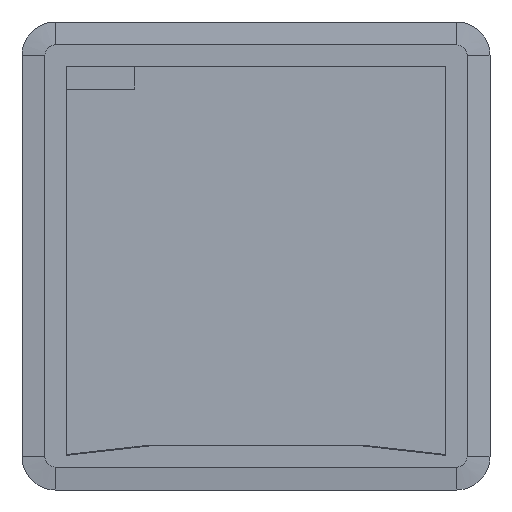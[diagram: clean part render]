
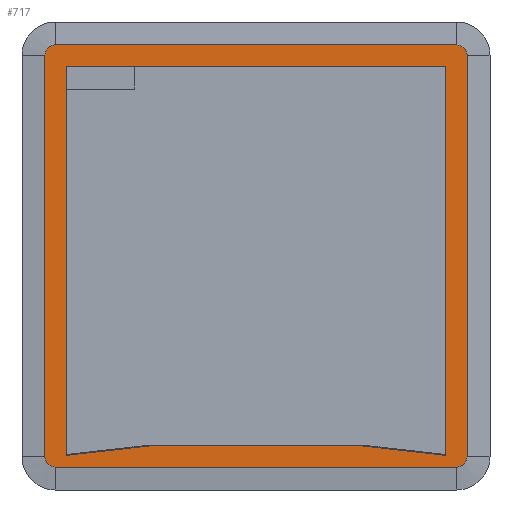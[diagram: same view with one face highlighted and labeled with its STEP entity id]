
A CAD part, front view. The second image highlights one B-rep face of the part: STEP entity #717.
In plain terms, the highlighted planar face has unit normal (0, -1, 0).
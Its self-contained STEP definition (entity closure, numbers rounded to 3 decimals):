
#157=FACE_BOUND('',#2316,.T.);
#717=ADVANCED_FACE('',(#1485,#157),#12813,.T.);
#1485=FACE_OUTER_BOUND('',#2315,.T.);
#2315=EDGE_LOOP('',(#5502,#5503,#5504,#5505,#5506,#5507,#5508,#5509));
#2316=EDGE_LOOP('',(#5510,#5511,#5512,#5513,#5514,#5515));
#5502=ORIENTED_EDGE('',*,*,#8147,.F.);
#5503=ORIENTED_EDGE('',*,*,#8150,.F.);
#5504=ORIENTED_EDGE('',*,*,#8153,.F.);
#5505=ORIENTED_EDGE('',*,*,#8156,.F.);
#5506=ORIENTED_EDGE('',*,*,#8159,.F.);
#5507=ORIENTED_EDGE('',*,*,#8178,.F.);
#5508=ORIENTED_EDGE('',*,*,#8140,.F.);
#5509=ORIENTED_EDGE('',*,*,#8144,.F.);
#5510=ORIENTED_EDGE('',*,*,#8128,.F.);
#5511=ORIENTED_EDGE('',*,*,#8126,.F.);
#5512=ORIENTED_EDGE('',*,*,#8124,.T.);
#5513=ORIENTED_EDGE('',*,*,#8129,.F.);
#5514=ORIENTED_EDGE('',*,*,#8130,.F.);
#5515=ORIENTED_EDGE('',*,*,#8127,.T.);
#8124=EDGE_CURVE('',#11807,#11806,#10530,.T.);
#8126=EDGE_CURVE('',#11807,#11808,#10532,.T.);
#8127=EDGE_CURVE('',#11810,#11809,#10533,.T.);
#8128=EDGE_CURVE('',#11808,#11809,#10534,.T.);
#8129=EDGE_CURVE('',#11812,#11806,#10535,.T.);
#8130=EDGE_CURVE('',#11810,#11812,#10536,.T.);
#8140=EDGE_CURVE('',#11814,#11813,#10546,.T.);
#8144=EDGE_CURVE('',#11811,#11814,#9195,.T.);
#8147=EDGE_CURVE('',#11818,#11811,#10551,.T.);
#8150=EDGE_CURVE('',#11820,#11818,#9197,.T.);
#8153=EDGE_CURVE('',#11822,#11820,#10555,.T.);
#8156=EDGE_CURVE('',#11824,#11822,#9199,.T.);
#8159=EDGE_CURVE('',#11826,#11824,#10559,.T.);
#8178=EDGE_CURVE('',#11813,#11826,#9205,.T.);
#9195=(
BOUNDED_CURVE()
B_SPLINE_CURVE(2,(#29902,#29903,#29904),.UNSPECIFIED.,.F.,.F.)
B_SPLINE_CURVE_WITH_KNOTS((3,3),(-7.069,0.),.UNSPECIFIED.)
CURVE()
GEOMETRIC_REPRESENTATION_ITEM()
RATIONAL_B_SPLINE_CURVE((1.,0.707,1.))
REPRESENTATION_ITEM('')
);
#9197=(
BOUNDED_CURVE()
B_SPLINE_CURVE(2,(#29916,#29917,#29918),.UNSPECIFIED.,.F.,.F.)
B_SPLINE_CURVE_WITH_KNOTS((3,3),(-7.069,0.),.UNSPECIFIED.)
CURVE()
GEOMETRIC_REPRESENTATION_ITEM()
RATIONAL_B_SPLINE_CURVE((1.,0.707,1.))
REPRESENTATION_ITEM('')
);
#9199=(
BOUNDED_CURVE()
B_SPLINE_CURVE(2,(#29930,#29931,#29932),.UNSPECIFIED.,.F.,.F.)
B_SPLINE_CURVE_WITH_KNOTS((3,3),(-7.069,0.),.UNSPECIFIED.)
CURVE()
GEOMETRIC_REPRESENTATION_ITEM()
RATIONAL_B_SPLINE_CURVE((1.,0.707,1.))
REPRESENTATION_ITEM('')
);
#9205=(
BOUNDED_CURVE()
B_SPLINE_CURVE(2,(#29980,#29981,#29982),.UNSPECIFIED.,.F.,.F.)
B_SPLINE_CURVE_WITH_KNOTS((3,3),(-7.069,0.),.UNSPECIFIED.)
CURVE()
GEOMETRIC_REPRESENTATION_ITEM()
RATIONAL_B_SPLINE_CURVE((1.,0.707,1.))
REPRESENTATION_ITEM('')
);
#10530=B_SPLINE_CURVE_WITH_KNOTS('',1,(#29784,#29785),.UNSPECIFIED.,.F.,
 .F.,(2,2),(-165.5,0.),.UNSPECIFIED.);
#10532=B_SPLINE_CURVE_WITH_KNOTS('',1,(#29788,#29789),.UNSPECIFIED.,.F.,
 .F.,(2,2),(0.,169.649),.UNSPECIFIED.);
#10533=B_SPLINE_CURVE_WITH_KNOTS('',1,(#29790,#29791),.UNSPECIFIED.,.F.,
 .F.,(2,2),(-92.062,0.),.UNSPECIFIED.);
#10534=B_SPLINE_CURVE_WITH_KNOTS('',1,(#29792,#29793),.UNSPECIFIED.,.F.,
 .F.,(2,2),(0.,36.953),.UNSPECIFIED.);
#10535=B_SPLINE_CURVE_WITH_KNOTS('',1,(#29794,#29795),.UNSPECIFIED.,.F.,
 .F.,(2,2),(0.,169.649),.UNSPECIFIED.);
#10536=B_SPLINE_CURVE_WITH_KNOTS('',1,(#29796,#29797),.UNSPECIFIED.,.F.,
 .F.,(2,2),(-36.953,0.),.UNSPECIFIED.);
#10546=B_SPLINE_CURVE_WITH_KNOTS('',1,(#29894,#29895),.UNSPECIFIED.,.F.,
 .F.,(2,2),(-175.,0.),.UNSPECIFIED.);
#10551=B_SPLINE_CURVE_WITH_KNOTS('',1,(#29910,#29911),.UNSPECIFIED.,.F.,
 .F.,(2,2),(-175.,0.),.UNSPECIFIED.);
#10555=B_SPLINE_CURVE_WITH_KNOTS('',1,(#29924,#29925),.UNSPECIFIED.,.F.,
 .F.,(2,2),(-175.,0.),.UNSPECIFIED.);
#10559=B_SPLINE_CURVE_WITH_KNOTS('',1,(#29938,#29939),.UNSPECIFIED.,.F.,
 .F.,(2,2),(-175.,0.),.UNSPECIFIED.);
#11806=VERTEX_POINT('',#29712);
#11807=VERTEX_POINT('',#29713);
#11808=VERTEX_POINT('',#29714);
#11809=VERTEX_POINT('',#29715);
#11810=VERTEX_POINT('',#29716);
#11811=VERTEX_POINT('',#29717);
#11812=VERTEX_POINT('',#29718);
#11813=VERTEX_POINT('',#29719);
#11814=VERTEX_POINT('',#29720);
#11818=VERTEX_POINT('',#29724);
#11820=VERTEX_POINT('',#29726);
#11822=VERTEX_POINT('',#29728);
#11824=VERTEX_POINT('',#29730);
#11826=VERTEX_POINT('',#29732);
#12813=PLANE('',#13203);
#13203=AXIS2_PLACEMENT_3D('',#29431,#13577,$);
#13577=DIRECTION('',(0.,-1.,0.));
#29431=CARTESIAN_POINT('',(-110.4,-27.5,110.4));
#29712=CARTESIAN_POINT('',(82.75,-27.5,82.75));
#29713=CARTESIAN_POINT('',(-82.75,-27.5,82.75));
#29714=CARTESIAN_POINT('',(-82.75,-27.5,-86.899));
#29715=CARTESIAN_POINT('',(-46.031,-27.5,-82.75));
#29716=CARTESIAN_POINT('',(46.031,-27.5,-82.75));
#29717=CARTESIAN_POINT('',(-92.,-27.5,87.5));
#29718=CARTESIAN_POINT('',(82.75,-27.5,-86.899));
#29719=CARTESIAN_POINT('',(87.5,-27.5,92.));
#29720=CARTESIAN_POINT('',(-87.5,-27.5,92.));
#29724=CARTESIAN_POINT('',(-92.,-27.5,-87.5));
#29726=CARTESIAN_POINT('',(-87.5,-27.5,-92.));
#29728=CARTESIAN_POINT('',(87.5,-27.5,-92.));
#29730=CARTESIAN_POINT('',(92.,-27.5,-87.5));
#29732=CARTESIAN_POINT('',(92.,-27.5,87.5));
#29784=CARTESIAN_POINT('',(-82.75,-27.5,82.75));
#29785=CARTESIAN_POINT('',(82.75,-27.5,82.75));
#29788=CARTESIAN_POINT('',(-82.75,-27.5,82.75));
#29789=CARTESIAN_POINT('',(-82.75,-27.5,-86.899));
#29790=CARTESIAN_POINT('',(46.031,-27.5,-82.75));
#29791=CARTESIAN_POINT('',(-46.031,-27.5,-82.75));
#29792=CARTESIAN_POINT('',(-82.75,-27.5,-86.899));
#29793=CARTESIAN_POINT('',(-46.031,-27.5,-82.75));
#29794=CARTESIAN_POINT('',(82.75,-27.5,-86.899));
#29795=CARTESIAN_POINT('',(82.75,-27.5,82.75));
#29796=CARTESIAN_POINT('',(46.031,-27.5,-82.75));
#29797=CARTESIAN_POINT('',(82.75,-27.5,-86.899));
#29894=CARTESIAN_POINT('',(-87.5,-27.5,92.));
#29895=CARTESIAN_POINT('',(87.5,-27.5,92.));
#29902=CARTESIAN_POINT('',(-92.,-27.5,87.5));
#29903=CARTESIAN_POINT('',(-92.,-27.5,92.));
#29904=CARTESIAN_POINT('',(-87.5,-27.5,92.));
#29910=CARTESIAN_POINT('',(-92.,-27.5,-87.5));
#29911=CARTESIAN_POINT('',(-92.,-27.5,87.5));
#29916=CARTESIAN_POINT('',(-87.5,-27.5,-92.));
#29917=CARTESIAN_POINT('',(-92.,-27.5,-92.));
#29918=CARTESIAN_POINT('',(-92.,-27.5,-87.5));
#29924=CARTESIAN_POINT('',(87.5,-27.5,-92.));
#29925=CARTESIAN_POINT('',(-87.5,-27.5,-92.));
#29930=CARTESIAN_POINT('',(92.,-27.5,-87.5));
#29931=CARTESIAN_POINT('',(92.,-27.5,-92.));
#29932=CARTESIAN_POINT('',(87.5,-27.5,-92.));
#29938=CARTESIAN_POINT('',(92.,-27.5,87.5));
#29939=CARTESIAN_POINT('',(92.,-27.5,-87.5));
#29980=CARTESIAN_POINT('',(87.5,-27.5,92.));
#29981=CARTESIAN_POINT('',(92.,-27.5,92.));
#29982=CARTESIAN_POINT('',(92.,-27.5,87.5));
